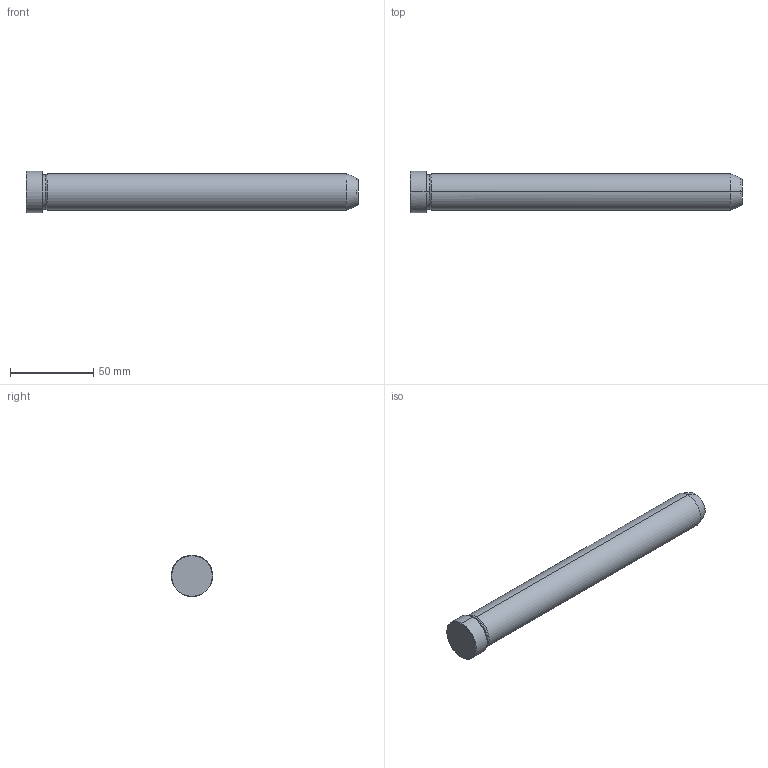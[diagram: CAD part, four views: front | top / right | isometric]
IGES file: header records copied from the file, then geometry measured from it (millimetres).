
Start section: START RECORD GO HERE.
Global section: file name: 549-22X200.igs; native system: DASSAULT SYSTEMES CATIA V5 R20 - www.3ds.com; preprocessor: CATIA Version 5 Release 20 ; author: Utente; organization: NB04-ASUS; date: 20211213.135637; units: millimetre
Bounding box: 200 x 25 x 25 mm (x, y, z)
Surface area: 14698.4 mm2 (no closed solid volume)
Topology: 0 solids, 0 shells, 19 faces, 112 edges, 112 vertices
Faces by surface type: revolution 16, plane 3
